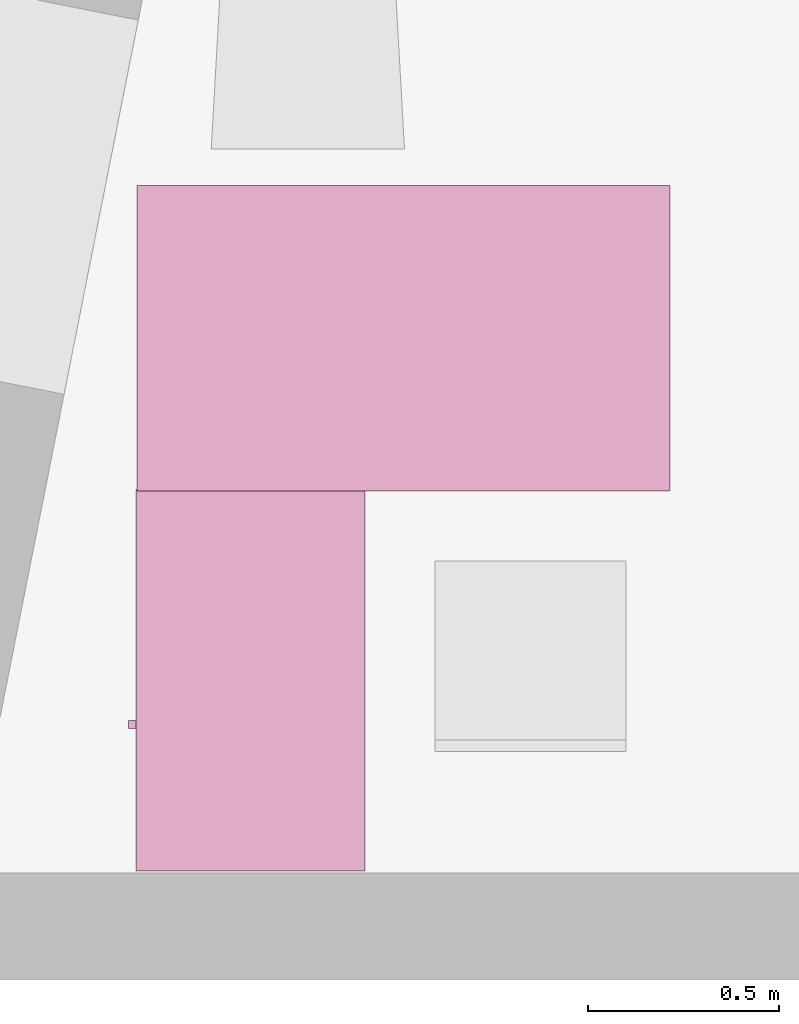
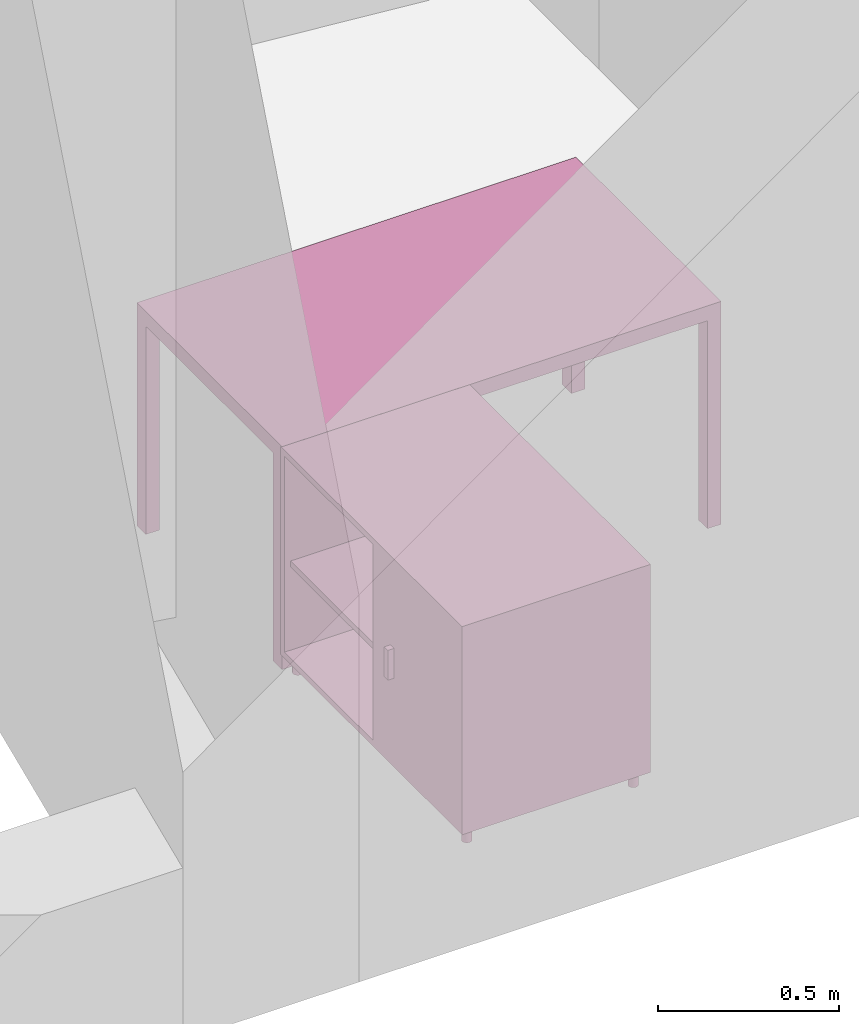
"""IFC4 building model written with IfcOpenShell, lengths in metres."""

from ifc_helpers import new_model, entity, si_unit, converted_unit, derived_unit, frame, origin, place, context, subcontext, project, spatial, faceted_brep, element, save


model = new_model("IFC4")

# Units and contexts
model_context = context("Model", 3, precision=1e-05, world=origin())
body_context = subcontext(model_context, "Body", "Model", "MODEL_VIEW")
ifc_project = project(units=[si_unit("LENGTHUNIT", "METRE"), si_unit("AREAUNIT", "SQUARE_METRE"), si_unit("VOLUMEUNIT", "CUBIC_METRE"), si_unit("MASSUNIT", "GRAM", prefix="KILO"), converted_unit("PLANEANGLEUNIT", "DEGREE", entity("IfcPlaneAngleMeasure", 0.0174532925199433), si_unit("PLANEANGLEUNIT", "RADIAN"), dimensions=[0, 0, 0, 0, 0, 0, 0]), derived_unit("THERMALTRANSMITTANCEUNIT", [(si_unit("POWERUNIT", "WATT"), 1), (si_unit("THERMODYNAMICTEMPERATUREUNIT", "KELVIN"), -1), (si_unit("LENGTHUNIT", "METRE"), -2)]), derived_unit("VOLUMETRICFLOWRATEUNIT", [(si_unit("LENGTHUNIT", "METRE"), 3), (converted_unit("TIMEUNIT", "hour", entity("IfcTimeMeasure", 3600.0), si_unit("TIMEUNIT", "SECOND"), dimensions=[0, 0, 1, 0, 0, 0, 0]), -1), (si_unit("LENGTHUNIT", "METRE"), -1)])], contexts=[model_context])

# Building, storeys
building_placement = place(None, origin())
building = spatial("IfcBuilding", under=ifc_project, at=building_placement, Name="HABITATGE PLURIFAMILIAR", CompositionType="ELEMENT")
storey_1_placement = place(building_placement, frame((0.0, 0.0, 6.25)))
storey_1 = spatial("IfcBuildingStorey", under=building, at=storey_1_placement, Name="PLANTA PRIMERA", CompositionType="ELEMENT", Elevation=6.25)
storey_2_placement = place(storey_1_placement, frame((0.0, 0.0, 3.35)))
storey_2 = spatial("IfcBuildingStorey", under=storey_1, at=storey_2_placement, Name="NOU", CompositionType="PARTIAL")

# Furniture
furniture_1_placement = place(storey_2_placement, frame((398.737093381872, 14.1227210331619, -3.35)))
element("IfcFurniture", 1, at=furniture_1_placement, inside=storey_2, Name="Taula 140X80_P1", context=body_context, shape_type="Brep", body=[
    faceted_brep([(0.04375, 0.750069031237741, 0.0), (0.04375, 0.800069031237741, 0.0), (0.0, 0.800069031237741, 0.0), (0.0, 0.750069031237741, 0.0), (0.04375, 0.800069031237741, 0.7), (0.04375, 0.750069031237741, 0.7), (0.0, 0.750069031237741, 0.7), (0.0, 0.800069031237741, 0.7)], [[[0, 1, 2, 3]], [[4, 5, 6, 7]], [[1, 0, 5, 4]], [[2, 1, 4, 7]], [[3, 2, 7, 6]], [[0, 3, 6, 5]]], orient=[[False], [False], [False], [False], [False], [False]]),
    faceted_brep([(0.04375, 0.0, 0.0), (0.04375, 0.05, 0.0), (0.0, 0.05, 0.0), (0.0, 0.0, 0.0), (0.04375, 0.05, 0.7), (0.04375, 0.0, 0.7), (0.0, 0.0, 0.7), (0.0, 0.05, 0.7)], [[[0, 1, 2, 3]], [[4, 5, 6, 7]], [[1, 0, 5, 4]], [[2, 1, 4, 7]], [[3, 2, 7, 6]], [[0, 3, 6, 5]]], orient=[[False], [False], [False], [False], [False], [False]]),
    faceted_brep([(1.39732768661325, 0.0, 0.7), (1.39732768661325, 0.800069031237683, 0.7), (0.0, 0.800069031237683, 0.7), (0.0, 0.0, 0.7), (1.39732768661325, 0.800069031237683, 0.75), (1.39732768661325, 0.0, 0.75), (0.0, 0.0, 0.75), (0.0, 0.800069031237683, 0.75)], [[[0, 1, 2, 3]], [[4, 5, 6, 7]], [[1, 0, 5, 4]], [[2, 1, 4, 7]], [[3, 2, 7, 6]], [[0, 3, 6, 5]]], orient=[[False], [False], [False], [False], [False], [False]]),
    faceted_brep([(1.39732768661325, 0.750069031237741, 0.0), (1.39732768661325, 0.800069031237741, 0.0), (1.35357768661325, 0.800069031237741, 0.0), (1.35357768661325, 0.750069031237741, 0.0), (1.39732768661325, 0.800069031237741, 0.7), (1.39732768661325, 0.750069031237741, 0.7), (1.35357768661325, 0.750069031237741, 0.7), (1.35357768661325, 0.800069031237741, 0.7)], [[[0, 1, 2, 3]], [[4, 5, 6, 7]], [[1, 0, 5, 4]], [[2, 1, 4, 7]], [[3, 2, 7, 6]], [[0, 3, 6, 5]]], orient=[[False], [False], [False], [False], [False], [False]]),
    faceted_brep([(1.39732768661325, 0.0, 0.0), (1.39732768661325, 0.05, 0.0), (1.35357768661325, 0.05, 0.0), (1.35357768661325, 0.0, 0.0), (1.39732768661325, 0.05, 0.7), (1.39732768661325, 0.0, 0.7), (1.35357768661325, 0.0, 0.7), (1.35357768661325, 0.05, 0.7)], [[[0, 1, 2, 3]], [[4, 5, 6, 7]], [[1, 0, 5, 4]], [[2, 1, 4, 7]], [[3, 2, 7, 6]], [[0, 3, 6, 5]]], orient=[[False], [False], [False], [False], [False], [False]]),
])
furniture_2_placement = place(storey_2_placement, frame((398.714421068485, 13.1257751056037, -3.35)))
element("IfcFurniture", 2, at=furniture_2_placement, inside=storey_2, Name="Taula 100X60_P1", context=body_context, shape_type="Brep", body=[
    faceted_brep([(0.620000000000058, 1.00000000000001, 0.05), (0.620000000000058, 1.00000000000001, 0.07), (0.02, 1.00000000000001, 0.07), (0.02, 1.00000000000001, 0.05), (0.02, 0.0, 0.07), (0.02, 0.0, 0.05), (0.620000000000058, 0.0, 0.07), (0.620000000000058, 0.0, 0.05)], [[[0, 1, 2, 3]], [[3, 2, 4, 5]], [[5, 4, 6, 7]], [[7, 6, 1, 0]], [[0, 3, 5, 7]], [[1, 6, 4, 2]]], orient=[[False], [False], [False], [False], [False], [False]]),
    faceted_brep([(0.04, 1.00000000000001, 0.35), (0.04, 0.0, 0.35), (0.62, 0.0, 0.35), (0.62, 1.00000000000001, 0.35), (0.62, 1.00000000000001, 0.37), (0.62, 0.0, 0.37), (0.04, 0.0, 0.37), (0.04, 1.00000000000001, 0.37)], [[[0, 1, 2, 3]], [[4, 5, 6, 7]], [[3, 4, 7, 0]], [[2, 5, 4, 3]], [[1, 6, 5, 2]], [[0, 7, 6, 1]]], orient=[[False], [False], [False], [False], [False], [False]]),
    faceted_brep([(0.04, 0.490000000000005, 0.75), (0.02, 0.490000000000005, 0.75), (0.02, 0.490000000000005, 0.05), (0.04, 0.490000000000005, 0.05), (0.02, 0.0, 0.05), (0.04, 0.0, 0.05), (0.02, 0.0, 0.75), (0.04, 0.0, 0.75)], [[[0, 1, 2, 3]], [[3, 2, 4, 5]], [[5, 4, 6, 7]], [[7, 6, 1, 0]], [[0, 3, 5, 7]], [[1, 6, 4, 2]]], orient=[[False], [False], [False], [False], [False], [False]]),
    faceted_brep([(0.62, 0.980000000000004, 0.75), (0.62, 1.0, 0.75), (0.620000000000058, 1.0, 0.0499999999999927), (0.620000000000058, 0.980000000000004, 0.0499999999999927), (0.02, 1.00000000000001, 0.05), (0.02, 0.980000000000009, 0.05), (0.02, 1.00000000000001, 0.75), (0.02, 0.980000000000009, 0.75)], [[[0, 1, 2, 3]], [[3, 2, 4, 5]], [[5, 4, 6, 7]], [[7, 6, 1, 0]], [[0, 3, 5, 7]], [[1, 6, 4, 2]]], orient=[[False], [False], [False], [False], [False], [False]]),
    faceted_brep([(0.62, 0.470000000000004, 0.75), (0.62, 0.490000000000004, 0.75), (0.620000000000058, 0.490000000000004, 0.0499999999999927), (0.620000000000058, 0.470000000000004, 0.0499999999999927), (0.02, 0.490000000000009, 0.05), (0.02, 0.470000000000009, 0.05), (0.02, 0.490000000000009, 0.75), (0.02, 0.470000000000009, 0.75)], [[[0, 1, 2, 3]], [[3, 2, 4, 5]], [[5, 4, 6, 7]], [[7, 6, 1, 0]], [[0, 3, 5, 7]], [[1, 6, 4, 2]]], orient=[[False], [False], [False], [False], [False], [False]]),
    faceted_brep([(0.620000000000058, 0.47, 0.75000000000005), (0.620000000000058, 0.490000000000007, 0.75000000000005), (0.620000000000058, 0.490000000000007, 0.0499999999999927), (0.620000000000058, 0.47, 0.0499999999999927), (0.0400000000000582, 0.490000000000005, 0.0499999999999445), (0.0400000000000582, 0.469999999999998, 0.0499999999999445), (0.04, 0.490000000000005, 0.750000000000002), (0.04, 0.469999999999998, 0.750000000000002)], [[[0, 1, 2, 3]], [[3, 2, 4, 5]], [[5, 4, 6, 7]], [[7, 6, 1, 0]], [[0, 3, 5, 7]], [[1, 6, 4, 2]]], orient=[[False], [False], [False], [False], [False], [False]]),
    faceted_brep([(0.62, 0.0, 0.75), (0.62, 0.0200000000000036, 0.75), (0.620000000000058, 0.0200000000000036, 0.0499999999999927), (0.620000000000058, 0.0, 0.0499999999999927), (0.02, 0.0200000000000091, 0.05), (0.02, 0.0, 0.05), (0.02, 0.0200000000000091, 0.75), (0.02, 0.0, 0.75)], [[[0, 1, 2, 3]], [[3, 2, 4, 5]], [[5, 4, 6, 7]], [[7, 6, 1, 0]], [[0, 3, 5, 7]], [[1, 6, 4, 2]]], orient=[[False], [False], [False], [False], [False], [False]]),
    faceted_brep([(0.620000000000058, 1.00000000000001, 0.73), (0.620000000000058, 1.00000000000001, 0.75), (0.02, 1.00000000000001, 0.75), (0.02, 1.00000000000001, 0.73), (0.02, 0.0, 0.75), (0.02, 0.0, 0.73), (0.620000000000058, 0.0, 0.75), (0.620000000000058, 0.0, 0.73)], [[[0, 1, 2, 3]], [[3, 2, 4, 5]], [[5, 4, 6, 7]], [[7, 6, 1, 0]], [[0, 3, 5, 7]], [[1, 6, 4, 2]]], orient=[[False], [False], [False], [False], [False], [False]]),
    faceted_brep([(0.62, 0.980000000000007, 0.75), (0.6, 0.980000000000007, 0.75), (0.6, 0.980000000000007, 0.05), (0.62, 0.980000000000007, 0.05), (0.6, 0.0, 0.05), (0.62, 0.0, 0.05), (0.6, 0.0, 0.75), (0.62, 0.0, 0.75)], [[[0, 1, 2, 3]], [[3, 2, 4, 5]], [[5, 4, 6, 7]], [[7, 6, 1, 0]], [[0, 3, 5, 7]], [[1, 6, 4, 2]]], orient=[[False], [False], [False], [False], [False], [False]]),
    faceted_brep([(0.02, 0.374420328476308, 0.35), (0.02, 0.394420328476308, 0.35), (0.0, 0.394420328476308, 0.35), (0.0, 0.374420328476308, 0.35), (0.02, 0.394420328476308, 0.45), (0.02, 0.374420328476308, 0.45), (0.0, 0.374420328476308, 0.45), (0.0, 0.394420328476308, 0.45)], [[[0, 1, 2, 3]], [[4, 5, 6, 7]], [[1, 0, 5, 4]], [[2, 1, 4, 7]], [[3, 2, 7, 6]], [[0, 3, 6, 5]]], orient=[[False], [False], [False], [False], [False], [False]]),
    faceted_brep([(0.583821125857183, 0.950063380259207, 0.0), (0.586415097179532, 0.950290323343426, 0.0), (0.588930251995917, 0.950964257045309, 0.0), (0.591290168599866, 0.95206470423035, 0.0), (0.59342314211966, 0.953558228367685, 0.0), (0.595264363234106, 0.955399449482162, 0.0), (0.596757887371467, 0.957532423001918, 0.0), (0.597858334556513, 0.959892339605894, 0.0), (0.598532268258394, 0.962407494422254, 0.0), (0.598759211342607, 0.96500146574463, 0.0), (0.598532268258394, 0.967595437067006, 0.0), (0.597858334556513, 0.970110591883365, 0.0), (0.596757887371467, 0.972470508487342, 0.0), (0.595264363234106, 0.974603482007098, 0.0), (0.59342314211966, 0.976444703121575, 0.0), (0.591290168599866, 0.97793822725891, 0.0), (0.588930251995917, 0.979038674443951, 0.0), (0.586415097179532, 0.979712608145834, 0.0), (0.583821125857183, 0.979939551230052, 0.0), (0.581227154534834, 0.979712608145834, 0.0), (0.578711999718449, 0.979038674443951, 0.0), (0.5763520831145, 0.97793822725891, 0.0), (0.574219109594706, 0.976444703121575, 0.0), (0.57237788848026, 0.974603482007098, 0.0), (0.570884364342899, 0.972470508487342, 0.0), (0.569783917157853, 0.970110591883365, 0.0), (0.569109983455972, 0.967595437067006, 0.0), (0.568883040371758, 0.96500146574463, 0.0), (0.569109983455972, 0.962407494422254, 0.0), (0.569783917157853, 0.959892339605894, 0.0), (0.570884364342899, 0.957532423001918, 0.0), (0.57237788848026, 0.955399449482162, 0.0), (0.574219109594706, 0.953558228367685, 0.0), (0.5763520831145, 0.95206470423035, 0.0), (0.578711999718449, 0.950964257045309, 0.0), (0.581227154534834, 0.950290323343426, 0.0), (0.583821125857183, 0.950063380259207, 0.05), (0.581227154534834, 0.950290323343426, 0.05), (0.578711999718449, 0.950964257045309, 0.05), (0.5763520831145, 0.95206470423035, 0.05), (0.574219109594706, 0.953558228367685, 0.05), (0.57237788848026, 0.955399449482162, 0.05), (0.570884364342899, 0.957532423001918, 0.05), (0.569783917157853, 0.959892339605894, 0.05), (0.569109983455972, 0.962407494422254, 0.05), (0.568883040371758, 0.96500146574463, 0.05), (0.569109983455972, 0.967595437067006, 0.05), (0.569783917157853, 0.970110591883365, 0.05), (0.570884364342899, 0.972470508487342, 0.05), (0.57237788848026, 0.974603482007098, 0.05), (0.574219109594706, 0.976444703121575, 0.05), (0.5763520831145, 0.97793822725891, 0.05), (0.578711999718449, 0.979038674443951, 0.05), (0.581227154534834, 0.979712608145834, 0.05), (0.583821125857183, 0.979939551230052, 0.05), (0.586415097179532, 0.979712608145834, 0.05), (0.588930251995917, 0.979038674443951, 0.05), (0.591290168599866, 0.97793822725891, 0.05), (0.59342314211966, 0.976444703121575, 0.05), (0.595264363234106, 0.974603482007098, 0.05), (0.596757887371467, 0.972470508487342, 0.05), (0.597858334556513, 0.970110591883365, 0.05), (0.598532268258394, 0.967595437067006, 0.05), (0.598759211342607, 0.96500146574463, 0.05), (0.598532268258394, 0.962407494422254, 0.05), (0.597858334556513, 0.959892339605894, 0.05), (0.596757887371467, 0.957532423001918, 0.05), (0.595264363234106, 0.955399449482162, 0.05), (0.59342314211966, 0.953558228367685, 0.05), (0.591290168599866, 0.95206470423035, 0.05), (0.588930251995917, 0.950964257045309, 0.05), (0.586415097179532, 0.950290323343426, 0.05)], [[[0, 1, 2, 3, 4, 5, 6, 7, 8, 9, 10, 11, 12, 13, 14, 15, 16, 17, 18, 19, 20, 21, 22, 23, 24, 25, 26, 27, 28, 29, 30, 31, 32, 33, 34, 35]], [[36, 37, 38, 39, 40, 41, 42, 43, 44, 45, 46, 47, 48, 49, 50, 51, 52, 53, 54, 55, 56, 57, 58, 59, 60, 61, 62, 63, 64, 65, 66, 67, 68, 69, 70, 71]], [[35, 37, 36, 0]], [[34, 38, 37, 35]], [[33, 39, 38, 34]], [[32, 40, 39, 33]], [[31, 41, 40, 32]], [[30, 42, 41, 31]], [[29, 43, 42, 30]], [[28, 44, 43, 29]], [[27, 45, 44, 28]], [[26, 46, 45, 27]], [[25, 47, 46, 26]], [[24, 48, 47, 25]], [[23, 49, 48, 24]], [[22, 50, 49, 23]], [[21, 51, 50, 22]], [[20, 52, 51, 21]], [[19, 53, 52, 20]], [[18, 54, 53, 19]], [[17, 55, 54, 18]], [[16, 56, 55, 17]], [[15, 57, 56, 16]], [[14, 58, 57, 15]], [[13, 59, 58, 14]], [[12, 60, 59, 13]], [[11, 61, 60, 12]], [[10, 62, 61, 11]], [[9, 63, 62, 10]], [[8, 64, 63, 9]], [[7, 65, 64, 8]], [[6, 66, 65, 7]], [[5, 67, 66, 6]], [[4, 68, 67, 5]], [[3, 69, 68, 4]], [[2, 70, 69, 3]], [[1, 71, 70, 2]], [[0, 36, 71, 1]]], orient=[[False], [False], [False], [False], [False], [False], [False], [False], [False], [False], [False], [False], [False], [False], [False], [False], [False], [False], [False], [False], [False], [False], [False], [False], [False], [False], [False], [False], [False], [False], [False], [False], [False], [False], [False], [False], [False], [False]]),
    faceted_brep([(0.0538211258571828, 0.950063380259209, 0.0), (0.0564150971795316, 0.950290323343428, 0.0), (0.0589302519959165, 0.950964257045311, 0.0), (0.0612901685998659, 0.952064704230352, 0.0), (0.06342314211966, 0.953558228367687, 0.0), (0.065264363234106, 0.955399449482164, 0.0), (0.0667578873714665, 0.95753242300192, 0.0), (0.067858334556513, 0.959892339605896, 0.0), (0.0685322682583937, 0.962407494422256, 0.0), (0.0687592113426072, 0.965001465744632, 0.0), (0.0685322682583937, 0.967595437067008, 0.0), (0.067858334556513, 0.970110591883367, 0.0), (0.0667578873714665, 0.972470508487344, 0.0), (0.065264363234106, 0.9746034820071, 0.0), (0.06342314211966, 0.976444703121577, 0.0), (0.0612901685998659, 0.977938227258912, 0.0), (0.0589302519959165, 0.979038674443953, 0.0), (0.0564150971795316, 0.979712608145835, 0.0), (0.0538211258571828, 0.979939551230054, 0.0), (0.051227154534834, 0.979712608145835, 0.0), (0.0487119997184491, 0.979038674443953, 0.0), (0.0463520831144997, 0.977938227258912, 0.0), (0.0442191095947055, 0.976444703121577, 0.0), (0.0423778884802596, 0.9746034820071, 0.0), (0.0408843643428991, 0.972470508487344, 0.0), (0.0397839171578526, 0.970110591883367, 0.0), (0.0391099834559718, 0.967595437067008, 0.0), (0.0388830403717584, 0.965001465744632, 0.0), (0.0391099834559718, 0.962407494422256, 0.0), (0.0397839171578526, 0.959892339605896, 0.0), (0.0408843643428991, 0.95753242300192, 0.0), (0.0423778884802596, 0.955399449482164, 0.0), (0.0442191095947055, 0.953558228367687, 0.0), (0.0463520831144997, 0.952064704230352, 0.0), (0.0487119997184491, 0.950964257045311, 0.0), (0.051227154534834, 0.950290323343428, 0.0), (0.0538211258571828, 0.950063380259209, 0.05), (0.051227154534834, 0.950290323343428, 0.05), (0.0487119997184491, 0.950964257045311, 0.05), (0.0463520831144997, 0.952064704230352, 0.05), (0.0442191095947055, 0.953558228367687, 0.05), (0.0423778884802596, 0.955399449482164, 0.05), (0.0408843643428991, 0.95753242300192, 0.05), (0.0397839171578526, 0.959892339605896, 0.05), (0.0391099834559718, 0.962407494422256, 0.05), (0.0388830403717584, 0.965001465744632, 0.05), (0.0391099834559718, 0.967595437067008, 0.05), (0.0397839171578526, 0.970110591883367, 0.05), (0.0408843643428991, 0.972470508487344, 0.05), (0.0423778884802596, 0.9746034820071, 0.05), (0.0442191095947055, 0.976444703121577, 0.05), (0.0463520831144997, 0.977938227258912, 0.05), (0.0487119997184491, 0.979038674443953, 0.05), (0.051227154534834, 0.979712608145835, 0.05), (0.0538211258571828, 0.979939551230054, 0.05), (0.0564150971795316, 0.979712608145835, 0.05), (0.0589302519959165, 0.979038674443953, 0.05), (0.0612901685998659, 0.977938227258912, 0.05), (0.06342314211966, 0.976444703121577, 0.05), (0.065264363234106, 0.9746034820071, 0.05), (0.0667578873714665, 0.972470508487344, 0.05), (0.067858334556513, 0.970110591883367, 0.05), (0.0685322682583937, 0.967595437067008, 0.05), (0.0687592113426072, 0.965001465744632, 0.05), (0.0685322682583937, 0.962407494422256, 0.05), (0.067858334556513, 0.959892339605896, 0.05), (0.0667578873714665, 0.95753242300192, 0.05), (0.065264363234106, 0.955399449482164, 0.05), (0.06342314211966, 0.953558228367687, 0.05), (0.0612901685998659, 0.952064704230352, 0.05), (0.0589302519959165, 0.950964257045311, 0.05), (0.0564150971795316, 0.950290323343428, 0.05)], [[[0, 1, 2, 3, 4, 5, 6, 7, 8, 9, 10, 11, 12, 13, 14, 15, 16, 17, 18, 19, 20, 21, 22, 23, 24, 25, 26, 27, 28, 29, 30, 31, 32, 33, 34, 35]], [[36, 37, 38, 39, 40, 41, 42, 43, 44, 45, 46, 47, 48, 49, 50, 51, 52, 53, 54, 55, 56, 57, 58, 59, 60, 61, 62, 63, 64, 65, 66, 67, 68, 69, 70, 71]], [[35, 37, 36, 0]], [[34, 38, 37, 35]], [[33, 39, 38, 34]], [[32, 40, 39, 33]], [[31, 41, 40, 32]], [[30, 42, 41, 31]], [[29, 43, 42, 30]], [[28, 44, 43, 29]], [[27, 45, 44, 28]], [[26, 46, 45, 27]], [[25, 47, 46, 26]], [[24, 48, 47, 25]], [[23, 49, 48, 24]], [[22, 50, 49, 23]], [[21, 51, 50, 22]], [[20, 52, 51, 21]], [[19, 53, 52, 20]], [[18, 54, 53, 19]], [[17, 55, 54, 18]], [[16, 56, 55, 17]], [[15, 57, 56, 16]], [[14, 58, 57, 15]], [[13, 59, 58, 14]], [[12, 60, 59, 13]], [[11, 61, 60, 12]], [[10, 62, 61, 11]], [[9, 63, 62, 10]], [[8, 64, 63, 9]], [[7, 65, 64, 8]], [[6, 66, 65, 7]], [[5, 67, 66, 6]], [[4, 68, 67, 5]], [[3, 69, 68, 4]], [[2, 70, 69, 3]], [[1, 71, 70, 2]], [[0, 36, 71, 1]]], orient=[[False], [False], [False], [False], [False], [False], [False], [False], [False], [False], [False], [False], [False], [False], [False], [False], [False], [False], [False], [False], [False], [False], [False], [False], [False], [False], [False], [False], [False], [False], [False], [False], [False], [False], [False], [False], [False], [False]]),
    faceted_brep([(0.0550000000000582, 0.0200170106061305, 0.0), (0.057593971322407, 0.0202439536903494, 0.0), (0.0601091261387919, 0.0209178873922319, 0.0), (0.0624690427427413, 0.022018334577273, 0.0), (0.0646020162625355, 0.023511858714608, 0.0), (0.0664432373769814, 0.0253530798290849, 0.0), (0.0679367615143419, 0.0274860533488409, 0.0), (0.0690372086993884, 0.0298459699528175, 0.0), (0.0697111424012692, 0.032361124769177, 0.0), (0.0699380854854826, 0.0349550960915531, 0.0), (0.0697111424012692, 0.0375490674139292, 0.0), (0.0690372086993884, 0.0400642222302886, 0.0), (0.0679367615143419, 0.0424241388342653, 0.0), (0.0664432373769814, 0.0445571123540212, 0.0), (0.0646020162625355, 0.0463983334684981, 0.0), (0.0624690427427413, 0.0478918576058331, 0.0), (0.0601091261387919, 0.0489923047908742, 0.0), (0.057593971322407, 0.0496662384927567, 0.0), (0.0550000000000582, 0.0498931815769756, 0.0), (0.0524060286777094, 0.0496662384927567, 0.0), (0.0498908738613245, 0.0489923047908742, 0.0), (0.0475309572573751, 0.0478918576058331, 0.0), (0.0453979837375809, 0.0463983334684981, 0.0), (0.043556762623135, 0.0445571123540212, 0.0), (0.0420632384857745, 0.0424241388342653, 0.0), (0.040962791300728, 0.0400642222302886, 0.0), (0.0402888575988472, 0.0375490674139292, 0.0), (0.0400619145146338, 0.0349550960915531, 0.0), (0.0402888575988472, 0.032361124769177, 0.0), (0.040962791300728, 0.0298459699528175, 0.0), (0.0420632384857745, 0.0274860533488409, 0.0), (0.043556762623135, 0.0253530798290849, 0.0), (0.0453979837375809, 0.023511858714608, 0.0), (0.0475309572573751, 0.022018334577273, 0.0), (0.0498908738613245, 0.0209178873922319, 0.0), (0.0524060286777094, 0.0202439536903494, 0.0), (0.0550000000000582, 0.0200170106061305, 0.05), (0.0524060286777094, 0.0202439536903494, 0.05), (0.0498908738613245, 0.0209178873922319, 0.05), (0.0475309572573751, 0.022018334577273, 0.05), (0.0453979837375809, 0.023511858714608, 0.05), (0.043556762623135, 0.0253530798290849, 0.05), (0.0420632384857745, 0.0274860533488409, 0.05), (0.040962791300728, 0.0298459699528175, 0.05), (0.0402888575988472, 0.032361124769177, 0.05), (0.0400619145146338, 0.0349550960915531, 0.05), (0.0402888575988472, 0.0375490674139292, 0.05), (0.040962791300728, 0.0400642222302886, 0.05), (0.0420632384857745, 0.0424241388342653, 0.05), (0.043556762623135, 0.0445571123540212, 0.05), (0.0453979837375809, 0.0463983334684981, 0.05), (0.0475309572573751, 0.0478918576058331, 0.05), (0.0498908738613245, 0.0489923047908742, 0.05), (0.0524060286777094, 0.0496662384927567, 0.05), (0.0550000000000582, 0.0498931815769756, 0.05), (0.057593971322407, 0.0496662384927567, 0.05), (0.0601091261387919, 0.0489923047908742, 0.05), (0.0624690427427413, 0.0478918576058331, 0.05), (0.0646020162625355, 0.0463983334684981, 0.05), (0.0664432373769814, 0.0445571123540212, 0.05), (0.0679367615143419, 0.0424241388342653, 0.05), (0.0690372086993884, 0.0400642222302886, 0.05), (0.0697111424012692, 0.0375490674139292, 0.05), (0.0699380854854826, 0.0349550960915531, 0.05), (0.0697111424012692, 0.032361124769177, 0.05), (0.0690372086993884, 0.0298459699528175, 0.05), (0.0679367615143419, 0.0274860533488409, 0.05), (0.0664432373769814, 0.0253530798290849, 0.05), (0.0646020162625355, 0.023511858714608, 0.05), (0.0624690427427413, 0.022018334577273, 0.05), (0.0601091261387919, 0.0209178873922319, 0.05), (0.057593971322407, 0.0202439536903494, 0.05)], [[[0, 1, 2, 3, 4, 5, 6, 7, 8, 9, 10, 11, 12, 13, 14, 15, 16, 17, 18, 19, 20, 21, 22, 23, 24, 25, 26, 27, 28, 29, 30, 31, 32, 33, 34, 35]], [[36, 37, 38, 39, 40, 41, 42, 43, 44, 45, 46, 47, 48, 49, 50, 51, 52, 53, 54, 55, 56, 57, 58, 59, 60, 61, 62, 63, 64, 65, 66, 67, 68, 69, 70, 71]], [[35, 37, 36, 0]], [[34, 38, 37, 35]], [[33, 39, 38, 34]], [[32, 40, 39, 33]], [[31, 41, 40, 32]], [[30, 42, 41, 31]], [[29, 43, 42, 30]], [[28, 44, 43, 29]], [[27, 45, 44, 28]], [[26, 46, 45, 27]], [[25, 47, 46, 26]], [[24, 48, 47, 25]], [[23, 49, 48, 24]], [[22, 50, 49, 23]], [[21, 51, 50, 22]], [[20, 52, 51, 21]], [[19, 53, 52, 20]], [[18, 54, 53, 19]], [[17, 55, 54, 18]], [[16, 56, 55, 17]], [[15, 57, 56, 16]], [[14, 58, 57, 15]], [[13, 59, 58, 14]], [[12, 60, 59, 13]], [[11, 61, 60, 12]], [[10, 62, 61, 11]], [[9, 63, 62, 10]], [[8, 64, 63, 9]], [[7, 65, 64, 8]], [[6, 66, 65, 7]], [[5, 67, 66, 6]], [[4, 68, 67, 5]], [[3, 69, 68, 4]], [[2, 70, 69, 3]], [[1, 71, 70, 2]], [[0, 36, 71, 1]]], orient=[[False], [False], [False], [False], [False], [False], [False], [False], [False], [False], [False], [False], [False], [False], [False], [False], [False], [False], [False], [False], [False], [False], [False], [False], [False], [False], [False], [False], [False], [False], [False], [False], [False], [False], [False], [False], [False], [False]]),
    faceted_brep([(0.585033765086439, 0.0203520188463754, 0.0), (0.587627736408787, 0.0205789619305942, 0.0), (0.590142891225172, 0.0212528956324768, 0.0), (0.592502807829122, 0.0223533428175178, 0.0), (0.594635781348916, 0.0238468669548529, 0.0), (0.596477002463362, 0.0256880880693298, 0.0), (0.597970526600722, 0.0278210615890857, 0.0), (0.599070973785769, 0.0301809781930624, 0.0), (0.59974490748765, 0.0326961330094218, 0.0), (0.599971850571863, 0.0352901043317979, 0.0), (0.59974490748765, 0.037884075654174, 0.0), (0.599070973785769, 0.0403992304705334, 0.0), (0.597970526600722, 0.0427591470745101, 0.0), (0.596477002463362, 0.0448921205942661, 0.0), (0.594635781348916, 0.046733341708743, 0.0), (0.592502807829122, 0.048226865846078, 0.0), (0.590142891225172, 0.049327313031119, 0.0), (0.587627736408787, 0.0500012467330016, 0.0), (0.585033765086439, 0.0502281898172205, 0.0), (0.58243979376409, 0.0500012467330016, 0.0), (0.579924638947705, 0.049327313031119, 0.0), (0.577564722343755, 0.048226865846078, 0.0), (0.575431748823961, 0.046733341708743, 0.0), (0.573590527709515, 0.0448921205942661, 0.0), (0.572097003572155, 0.0427591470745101, 0.0), (0.570996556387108, 0.0403992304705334, 0.0), (0.570322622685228, 0.037884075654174, 0.0), (0.570095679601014, 0.0352901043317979, 0.0), (0.570322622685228, 0.0326961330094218, 0.0), (0.570996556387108, 0.0301809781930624, 0.0), (0.572097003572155, 0.0278210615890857, 0.0), (0.573590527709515, 0.0256880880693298, 0.0), (0.575431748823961, 0.0238468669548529, 0.0), (0.577564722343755, 0.0223533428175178, 0.0), (0.579924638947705, 0.0212528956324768, 0.0), (0.58243979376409, 0.0205789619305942, 0.0), (0.585033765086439, 0.0203520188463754, 0.05), (0.58243979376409, 0.0205789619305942, 0.05), (0.579924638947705, 0.0212528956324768, 0.05), (0.577564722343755, 0.0223533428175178, 0.05), (0.575431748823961, 0.0238468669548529, 0.05), (0.573590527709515, 0.0256880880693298, 0.05), (0.572097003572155, 0.0278210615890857, 0.05), (0.570996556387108, 0.0301809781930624, 0.05), (0.570322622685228, 0.0326961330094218, 0.05), (0.570095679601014, 0.0352901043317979, 0.05), (0.570322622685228, 0.037884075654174, 0.05), (0.570996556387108, 0.0403992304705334, 0.05), (0.572097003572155, 0.0427591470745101, 0.05), (0.573590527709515, 0.0448921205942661, 0.05), (0.575431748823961, 0.046733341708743, 0.05), (0.577564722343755, 0.048226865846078, 0.05), (0.579924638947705, 0.049327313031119, 0.05), (0.58243979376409, 0.0500012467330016, 0.05), (0.585033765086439, 0.0502281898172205, 0.05), (0.587627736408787, 0.0500012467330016, 0.05), (0.590142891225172, 0.049327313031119, 0.05), (0.592502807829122, 0.048226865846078, 0.05), (0.594635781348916, 0.046733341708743, 0.05), (0.596477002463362, 0.0448921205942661, 0.05), (0.597970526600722, 0.0427591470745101, 0.05), (0.599070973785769, 0.0403992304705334, 0.05), (0.59974490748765, 0.037884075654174, 0.05), (0.599971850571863, 0.0352901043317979, 0.05), (0.59974490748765, 0.0326961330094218, 0.05), (0.599070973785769, 0.0301809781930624, 0.05), (0.597970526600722, 0.0278210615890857, 0.05), (0.596477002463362, 0.0256880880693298, 0.05), (0.594635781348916, 0.0238468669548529, 0.05), (0.592502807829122, 0.0223533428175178, 0.05), (0.590142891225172, 0.0212528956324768, 0.05), (0.587627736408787, 0.0205789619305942, 0.05)], [[[0, 1, 2, 3, 4, 5, 6, 7, 8, 9, 10, 11, 12, 13, 14, 15, 16, 17, 18, 19, 20, 21, 22, 23, 24, 25, 26, 27, 28, 29, 30, 31, 32, 33, 34, 35]], [[36, 37, 38, 39, 40, 41, 42, 43, 44, 45, 46, 47, 48, 49, 50, 51, 52, 53, 54, 55, 56, 57, 58, 59, 60, 61, 62, 63, 64, 65, 66, 67, 68, 69, 70, 71]], [[35, 37, 36, 0]], [[34, 38, 37, 35]], [[33, 39, 38, 34]], [[32, 40, 39, 33]], [[31, 41, 40, 32]], [[30, 42, 41, 31]], [[29, 43, 42, 30]], [[28, 44, 43, 29]], [[27, 45, 44, 28]], [[26, 46, 45, 27]], [[25, 47, 46, 26]], [[24, 48, 47, 25]], [[23, 49, 48, 24]], [[22, 50, 49, 23]], [[21, 51, 50, 22]], [[20, 52, 51, 21]], [[19, 53, 52, 20]], [[18, 54, 53, 19]], [[17, 55, 54, 18]], [[16, 56, 55, 17]], [[15, 57, 56, 16]], [[14, 58, 57, 15]], [[13, 59, 58, 14]], [[12, 60, 59, 13]], [[11, 61, 60, 12]], [[10, 62, 61, 11]], [[9, 63, 62, 10]], [[8, 64, 63, 9]], [[7, 65, 64, 8]], [[6, 66, 65, 7]], [[5, 67, 66, 6]], [[4, 68, 67, 5]], [[3, 69, 68, 4]], [[2, 70, 69, 3]], [[1, 71, 70, 2]], [[0, 36, 71, 1]]], orient=[[False], [False], [False], [False], [False], [False], [False], [False], [False], [False], [False], [False], [False], [False], [False], [False], [False], [False], [False], [False], [False], [False], [False], [False], [False], [False], [False], [False], [False], [False], [False], [False], [False], [False], [False], [False], [False], [False]]),
])

save(model, "model.ifc")
